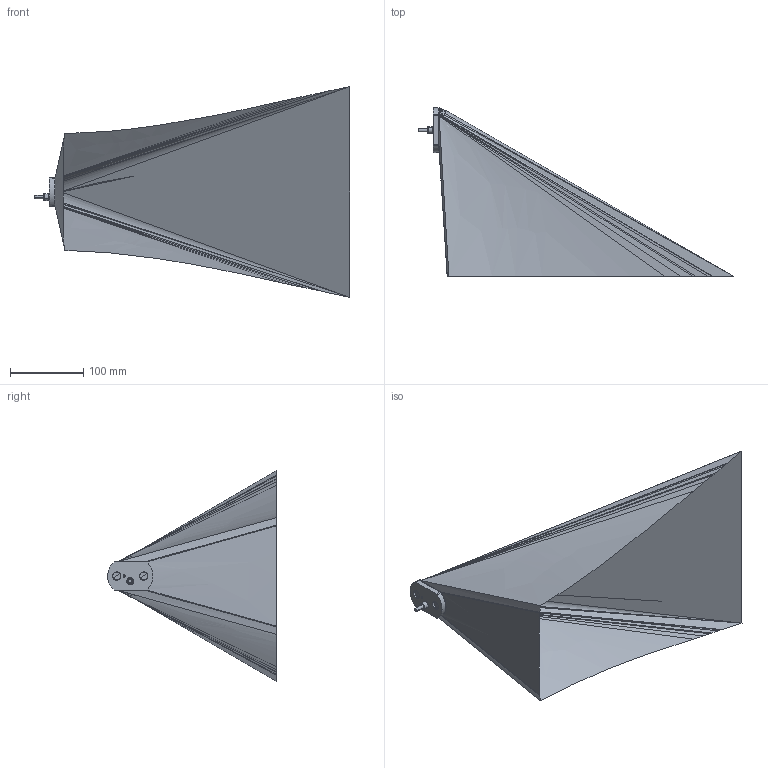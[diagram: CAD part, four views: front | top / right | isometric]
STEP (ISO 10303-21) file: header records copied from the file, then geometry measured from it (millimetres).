
FILE_DESCRIPTION(('CATIA V5 STEP Exchange','CAx-IF Rec.Pracs.--- Model Styling and Organization---1.5--- 2016-08-15','CAx-IF Rec.Pracs.---Supplemental Geometry---1.0---2011-11-01','CAx-IF Rec.Pracs.--- Composite Materials ---1.1---2010-07-15'),'2;1');
FILE_NAME('E:\tmp\ddx\2011205\HELLA_3D_data_LED_direction_indicator_lamp_cat-5_SHAPELINE_tech_2BM-013-336.stp','2022-01-18T07:00:16+00:00',('none'),('none'),'CATIA Version 5-6 Release 2020 SP3 HF9','CATIA V5 STEP AP214 Edition 3 v2','none');
FILE_SCHEMA(('AUTOMOTIVE_DESIGN { 1 0 10303 214 3 1 1 1 }'));
Length unit declared in the file: millimetre
Products named in the file (1): 10002759040_D10_001
Bounding box: 431.32 x 230.99 x 288.34 mm (x, y, z)
Volume: 34396.1 mm3; surface area: 196663.6 mm2
Topology: 1 solids, 2 shells, 812 faces, 2232 edges, 1446 vertices
Faces by surface type: plane 276, bspline 226, extrusion 168, cylinder 87, cone 26, torus 21, sphere 6, revolution 2
Entity records: 38512 total; most frequent: CARTESIAN_POINT 21317, ORIENTED_EDGE 4392, EDGE_CURVE 2212, DIRECTION 1897, VERTEX_POINT 1446, B_SPLINE_CURVE_WITH_KNOTS 1305, VECTOR 1087, LINE 919
